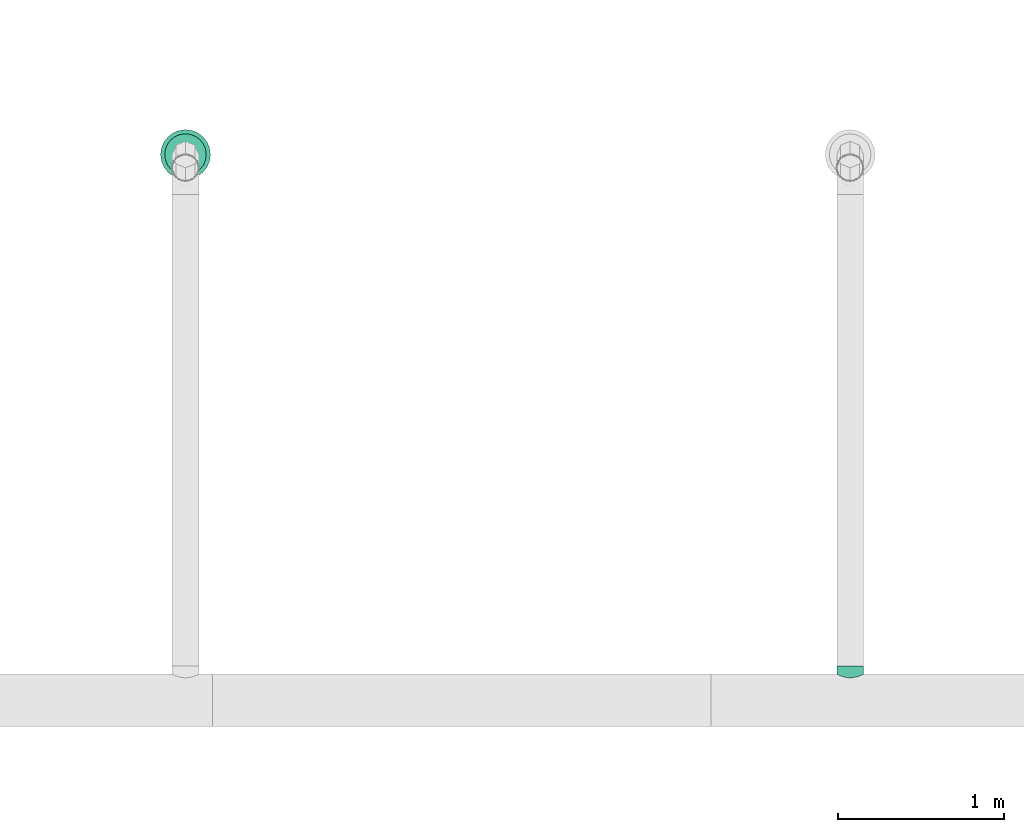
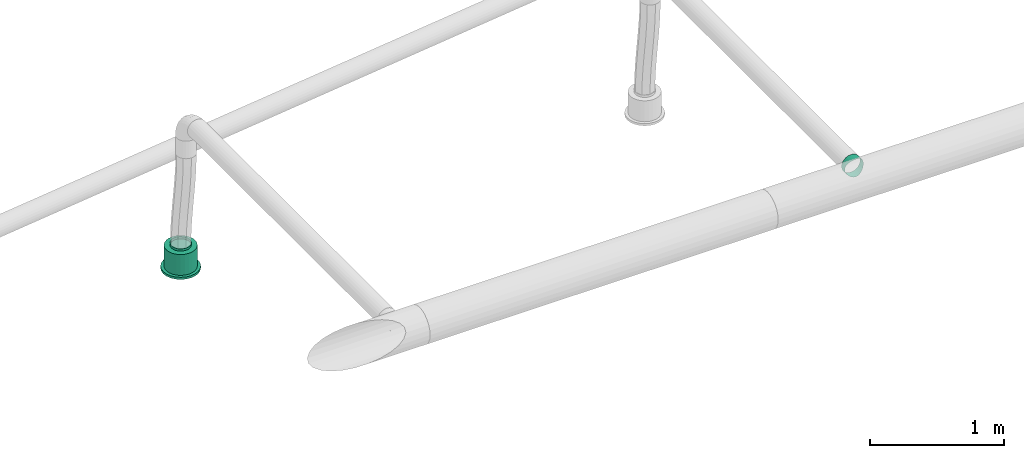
# One storey, part 50 of 374: 1 flow segment, 1 flow terminal.
"""IFC2X3 building model written with IfcOpenShell, lengths in metres."""

from ifc_helpers import new_model, si_unit, direction, origin, place, context, subcontext, project, spatial, open_shell, surface_model, source, transform, mapped, element, save


model = new_model("IFC2X3")

# Units and contexts
model_context = context("Model", 3, precision=1e-05, world=origin(), true_north=direction((-0.4480736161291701, 0.8939966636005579)))
body_context = subcontext(model_context, "Body", "Model", "MODEL_VIEW")
ifc_project = project(units=[si_unit("LENGTHUNIT", "METRE"), si_unit("AREAUNIT", "SQUARE_METRE"), si_unit("VOLUMEUNIT", "CUBIC_METRE"), si_unit("PLANEANGLEUNIT", "RADIAN"), si_unit("THERMODYNAMICTEMPERATUREUNIT", "KELVIN"), si_unit("MASSUNIT", "GRAM", prefix="KILO"), si_unit("TIMEUNIT", "SECOND")], contexts=[model_context])

# Site, building, storey
site_placement = place(None, origin())
site = spatial("IfcSite", under=ifc_project, at=site_placement, Name="Site 1", CompositionType="ELEMENT")
building_placement = place(site_placement, origin())
building = spatial("IfcBuilding", under=site, at=building_placement, Name="Undefined", CompositionType="ELEMENT")
storey_placement = place(building_placement, origin())
storey = spatial("IfcBuildingStorey", under=building, at=storey_placement, Name="Rez de chauss\x8ee", CompositionType="ELEMENT", Elevation=0.0)

# Flow terminal
shared_shape_1 = source(origin(), body_context, "Body", "SurfaceModel", [
    surface_model("IfcFaceBasedSurfaceModel", [(0.0, 0.0, 0.0), (0.03915785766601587, 0.0, 0.0), (0.03915785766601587, 0.020000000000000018, 0.0), (3.552713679e-15, 0.020000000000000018, 0.0), (0.07698144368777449, 0.0, -0.010134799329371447), (0.07698144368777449, 0.020000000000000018, -0.010134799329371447), (0.11089314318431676, 0.0, -0.02971372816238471), (0.11089314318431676, 0.020000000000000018, -0.02971372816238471), (0.13858192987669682, 0.0, -0.05740251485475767), (0.13858192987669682, 0.020000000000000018, -0.05740251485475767), (0.15816085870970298, 0.0, -0.09131421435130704), (0.15816085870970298, 0.020000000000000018, -0.09131421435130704), (0.16829565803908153, 0.0, -0.12913780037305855), (0.16829565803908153, 0.020000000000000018, -0.12913780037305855), (0.16829565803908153, 0.0, -0.16829565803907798), (0.16829565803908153, 0.020000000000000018, -0.16829565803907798), (0.15816085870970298, 0.0, -0.20611924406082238), (0.15816085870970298, 0.020000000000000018, -0.20611924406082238), (0.13858192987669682, 0.0, -0.24003094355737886), (0.13858192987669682, 0.020000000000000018, -0.24003094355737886), (0.11089314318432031, 0.0, -0.2677197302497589), (0.11089314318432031, 0.020000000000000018, -0.2677197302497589), (0.07698144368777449, 0.0, -0.2872986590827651), (0.07698144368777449, 0.020000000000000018, -0.2872986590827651), (0.039157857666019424, 0.0, -0.29743345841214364), (0.039157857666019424, 0.020000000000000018, -0.29743345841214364), (3.552713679e-15, 0.0, -0.29743345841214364), (3.552713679e-15, 0.020000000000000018, -0.29743345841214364), (-0.03782358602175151, 0.0, -0.2872986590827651), (-0.03782358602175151, 0.020000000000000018, -0.2872986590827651), (-0.07173528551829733, 0.0, -0.2677197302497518), (-0.07173528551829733, 0.020000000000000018, -0.2677197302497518), (-0.0994240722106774, 0.0, -0.24003094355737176), (-0.0994240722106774, 0.020000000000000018, -0.24003094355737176), (-0.11900300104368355, 0.0, -0.2061192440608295), (-0.11900300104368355, 0.020000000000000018, -0.2061192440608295), (-0.1291378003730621, 0.0, -0.16829565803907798), (-0.1291378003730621, 0.020000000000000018, -0.16829565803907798), (-0.1291378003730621, 0.0, -0.12913780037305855), (-0.1291378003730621, 0.020000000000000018, -0.12913780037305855), (-0.11900300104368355, 0.0, -0.09131421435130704), (-0.11900300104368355, 0.020000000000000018, -0.09131421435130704), (-0.0994240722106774, 0.0, -0.05740251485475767), (-0.0994240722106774, 0.020000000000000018, -0.05740251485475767), (-0.07173528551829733, 0.0, -0.029713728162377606), (-0.07173528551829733, 0.020000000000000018, -0.029713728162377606), (-0.03782358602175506, 0.0, -0.010134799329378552), (-0.03782358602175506, 0.020000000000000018, -0.010134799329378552), (0.019578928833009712, 0.0, -0.14871672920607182), (0.019578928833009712, 0.020000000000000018, -0.14871672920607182), (0.003263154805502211, 0.020000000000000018, -0.02478612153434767), (0.035894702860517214, 0.020000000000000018, -0.02478612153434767), (0.035894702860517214, 0.20999999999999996, -0.02478612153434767), (0.003263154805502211, 0.20999999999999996, -0.02478612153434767), (0.06741435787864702, 0.020000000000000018, -0.033231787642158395), (0.06741435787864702, 0.20999999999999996, -0.033231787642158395), (0.0956741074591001, 0.020000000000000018, -0.04954756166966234), (0.0956741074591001, 0.20999999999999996, -0.04954756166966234), (0.11874809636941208, 0.020000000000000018, -0.07262155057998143), (0.11874809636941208, 0.20999999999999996, -0.07262155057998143), (0.13506387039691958, 0.020000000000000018, -0.10088130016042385), (0.13506387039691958, 0.20999999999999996, -0.10088130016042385), (0.1435095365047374, 0.020000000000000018, -0.13240095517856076), (0.1435095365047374, 0.20999999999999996, -0.13240095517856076), (0.1435095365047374, 0.020000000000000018, -0.16503250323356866), (0.1435095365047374, 0.20999999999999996, -0.16503250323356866), (0.13506387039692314, 0.020000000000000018, -0.19655215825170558), (0.13506387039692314, 0.20999999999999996, -0.19655215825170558), (0.11874809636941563, 0.020000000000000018, -0.2248119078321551), (0.11874809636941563, 0.20999999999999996, -0.2248119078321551), (0.09567410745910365, 0.020000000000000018, -0.24788589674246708), (0.09567410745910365, 0.20999999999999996, -0.24788589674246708), (0.06741435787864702, 0.020000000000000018, -0.26420167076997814), (0.06741435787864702, 0.20999999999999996, -0.26420167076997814), (0.035894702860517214, 0.020000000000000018, -0.27264733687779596), (0.035894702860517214, 0.20999999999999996, -0.27264733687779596), (0.0032631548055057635, 0.020000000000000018, -0.27264733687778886), (0.0032631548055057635, 0.20999999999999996, -0.27264733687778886), (-0.028256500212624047, 0.020000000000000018, -0.26420167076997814), (-0.028256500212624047, 0.20999999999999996, -0.26420167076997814), (-0.05651624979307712, 0.020000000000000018, -0.2478858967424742), (-0.05651624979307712, 0.20999999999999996, -0.2478858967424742), (-0.07959023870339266, 0.020000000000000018, -0.2248119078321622), (-0.07959023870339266, 0.20999999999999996, -0.2248119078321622), (-0.09590601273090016, 0.020000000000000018, -0.19655215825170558), (-0.09590601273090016, 0.20999999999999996, -0.19655215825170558), (-0.10435167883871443, 0.020000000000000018, -0.16503250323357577), (-0.10435167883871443, 0.20999999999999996, -0.16503250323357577), (-0.10435167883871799, 0.020000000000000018, -0.13240095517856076), (-0.10435167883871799, 0.20999999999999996, -0.13240095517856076), (-0.09590601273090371, 0.020000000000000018, -0.10088130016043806), (-0.09590601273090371, 0.20999999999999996, -0.10088130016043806), (-0.07959023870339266, 0.020000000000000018, -0.07262155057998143), (-0.07959023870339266, 0.20999999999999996, -0.07262155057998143), (-0.056516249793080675, 0.020000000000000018, -0.04954756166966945), (-0.056516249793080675, 0.20999999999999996, -0.04954756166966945), (-0.028256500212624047, 0.020000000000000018, -0.033231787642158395), (-0.028256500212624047, 0.20999999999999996, -0.033231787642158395), (0.019578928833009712, 0.20999999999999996, -0.14871672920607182), (0.009136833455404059, 0.20999999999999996, -0.06940114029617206), (0.030021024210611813, 0.20999999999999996, -0.06940114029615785), (0.030021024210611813, 0.22999999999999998, -0.06940114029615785), (0.009136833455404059, 0.22999999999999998, -0.06940114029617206), (0.05019360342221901, 0.20999999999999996, -0.07480636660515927), (0.05019360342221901, 0.22999999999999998, -0.07480636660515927), (0.06827984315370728, 0.20999999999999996, -0.08524846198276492), (0.06827984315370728, 0.22999999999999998, -0.08524846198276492), (0.0830471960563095, 0.20999999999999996, -0.10001581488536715), (0.0830471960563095, 0.22999999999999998, -0.10001581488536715), (0.0934892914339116, 0.20999999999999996, -0.11810205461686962), (0.0934892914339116, 0.22999999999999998, -0.11810205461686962), (0.09889451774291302, 0.20999999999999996, -0.13827463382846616), (0.09889451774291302, 0.22999999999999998, -0.13827463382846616), (0.09889451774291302, 0.20999999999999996, -0.15915882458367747), (0.09889451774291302, 0.22999999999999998, -0.15915882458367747), (0.09348929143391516, 0.20999999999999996, -0.179331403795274), (0.09348929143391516, 0.22999999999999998, -0.179331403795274), (0.0830471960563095, 0.20999999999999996, -0.19741764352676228), (0.0830471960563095, 0.22999999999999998, -0.19741764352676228), (0.06827984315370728, 0.20999999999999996, -0.2121849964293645), (0.06827984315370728, 0.22999999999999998, -0.2121849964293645), (0.05019360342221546, 0.20999999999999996, -0.22262709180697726), (0.05019360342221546, 0.22999999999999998, -0.22262709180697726), (0.030021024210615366, 0.20999999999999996, -0.22803231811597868), (0.030021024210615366, 0.22999999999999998, -0.22803231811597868), (0.009136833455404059, 0.20999999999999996, -0.22803231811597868), (0.009136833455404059, 0.22999999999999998, -0.22803231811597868), (-0.011035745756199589, 0.20999999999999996, -0.22262709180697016), (-0.011035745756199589, 0.22999999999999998, -0.22262709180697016), (-0.0291219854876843, 0.20999999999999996, -0.2121849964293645), (-0.0291219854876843, 0.22999999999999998, -0.2121849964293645), (-0.043889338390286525, 0.20999999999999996, -0.19741764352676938), (-0.043889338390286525, 0.22999999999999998, -0.19741764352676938), (-0.05433143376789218, 0.20999999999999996, -0.17933140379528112), (-0.05433143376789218, 0.22999999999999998, -0.17933140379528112), (-0.05973666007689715, 0.20999999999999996, -0.15915882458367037), (-0.05973666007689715, 0.22999999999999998, -0.15915882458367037), (-0.0597366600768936, 0.20999999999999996, -0.13827463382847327), (-0.0597366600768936, 0.22999999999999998, -0.13827463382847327), (-0.05433143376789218, 0.20999999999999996, -0.11810205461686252), (-0.05433143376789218, 0.22999999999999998, -0.11810205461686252), (-0.043889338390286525, 0.20999999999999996, -0.10001581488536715), (-0.043889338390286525, 0.22999999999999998, -0.10001581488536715), (-0.02912198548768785, 0.20999999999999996, -0.08524846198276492), (-0.02912198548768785, 0.22999999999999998, -0.08524846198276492), (-0.011035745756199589, 0.20999999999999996, -0.07480636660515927), (-0.011035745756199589, 0.22999999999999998, -0.07480636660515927)], [open_shell([[[0, 1, 2, 3]], [[1, 4, 5, 2]], [[4, 6, 7, 5]], [[6, 8, 9, 7]], [[8, 10, 11, 9]], [[10, 12, 13, 11]], [[12, 14, 15, 13]], [[14, 16, 17, 15]], [[16, 18, 19, 17]], [[18, 20, 21, 19]], [[20, 22, 23, 21]], [[22, 24, 25, 23]], [[24, 26, 27, 25]], [[26, 28, 29, 27]], [[28, 30, 31, 29]], [[30, 32, 33, 31]], [[32, 34, 35, 33]], [[34, 36, 37, 35]], [[36, 38, 39, 37]], [[38, 40, 41, 39]], [[40, 42, 43, 41]], [[42, 44, 45, 43]], [[44, 46, 47, 45]], [[46, 0, 3, 47]], [[48, 1, 0]], [[48, 4, 1]], [[48, 6, 4]], [[48, 8, 6]], [[48, 10, 8]], [[48, 12, 10]], [[48, 14, 12]], [[48, 16, 14]], [[48, 18, 16]], [[48, 20, 18]], [[48, 22, 20]], [[48, 24, 22]], [[48, 26, 24]], [[48, 28, 26]], [[48, 30, 28]], [[48, 32, 30]], [[48, 34, 32]], [[48, 36, 34]], [[48, 38, 36]], [[48, 40, 38]], [[48, 42, 40]], [[48, 44, 42]], [[48, 46, 44]], [[48, 0, 46]], [[49, 47, 3]], [[49, 45, 47]], [[49, 43, 45]], [[49, 41, 43]], [[49, 39, 41]], [[49, 37, 39]], [[49, 35, 37]], [[49, 33, 35]], [[49, 31, 33]], [[49, 29, 31]], [[49, 27, 29]], [[49, 25, 27]], [[49, 23, 25]], [[49, 21, 23]], [[49, 19, 21]], [[49, 17, 19]], [[49, 15, 17]], [[49, 13, 15]], [[49, 11, 13]], [[49, 9, 11]], [[49, 7, 9]], [[49, 5, 7]], [[49, 2, 5]], [[49, 3, 2]], [[50, 51, 52, 53]], [[51, 54, 55, 52]], [[54, 56, 57, 55]], [[56, 58, 59, 57]], [[58, 60, 61, 59]], [[60, 62, 63, 61]], [[62, 64, 65, 63]], [[64, 66, 67, 65]], [[66, 68, 69, 67]], [[68, 70, 71, 69]], [[70, 72, 73, 71]], [[72, 74, 75, 73]], [[74, 76, 77, 75]], [[76, 78, 79, 77]], [[78, 80, 81, 79]], [[80, 82, 83, 81]], [[82, 84, 85, 83]], [[84, 86, 87, 85]], [[86, 88, 89, 87]], [[88, 90, 91, 89]], [[90, 92, 93, 91]], [[92, 94, 95, 93]], [[94, 96, 97, 95]], [[96, 50, 53, 97]], [[49, 51, 50]], [[49, 54, 51]], [[49, 56, 54]], [[49, 58, 56]], [[49, 60, 58]], [[49, 62, 60]], [[49, 64, 62]], [[49, 66, 64]], [[49, 68, 66]], [[49, 70, 68]], [[49, 72, 70]], [[49, 74, 72]], [[49, 76, 74]], [[49, 78, 76]], [[49, 80, 78]], [[49, 82, 80]], [[49, 84, 82]], [[49, 86, 84]], [[49, 88, 86]], [[49, 90, 88]], [[49, 92, 90]], [[49, 94, 92]], [[49, 96, 94]], [[49, 50, 96]], [[98, 97, 53]], [[98, 95, 97]], [[98, 93, 95]], [[98, 91, 93]], [[98, 89, 91]], [[98, 87, 89]], [[98, 85, 87]], [[98, 83, 85]], [[98, 81, 83]], [[98, 79, 81]], [[98, 77, 79]], [[98, 75, 77]], [[98, 73, 75]], [[98, 71, 73]], [[98, 69, 71]], [[98, 67, 69]], [[98, 65, 67]], [[98, 63, 65]], [[98, 61, 63]], [[98, 59, 61]], [[98, 57, 59]], [[98, 55, 57]], [[98, 52, 55]], [[98, 53, 52]], [[99, 100, 101, 102]], [[100, 103, 104, 101]], [[103, 105, 106, 104]], [[105, 107, 108, 106]], [[107, 109, 110, 108]], [[109, 111, 112, 110]], [[111, 113, 114, 112]], [[113, 115, 116, 114]], [[115, 117, 118, 116]], [[117, 119, 120, 118]], [[119, 121, 122, 120]], [[121, 123, 124, 122]], [[123, 125, 126, 124]], [[125, 127, 128, 126]], [[127, 129, 130, 128]], [[129, 131, 132, 130]], [[131, 133, 134, 132]], [[133, 135, 136, 134]], [[135, 137, 138, 136]], [[137, 139, 140, 138]], [[139, 141, 142, 140]], [[141, 143, 144, 142]], [[143, 145, 146, 144]], [[145, 99, 102, 146]]])]),
])
flow_terminal_placement = place(storey_placement, origin())
element("IfcFlowTerminal", 1, at=flow_terminal_placement, inside=storey, Name="Air diffuseur - bouche", ObjectType="Air diffuseur - bouche", context=body_context, shape_type="MappedRepresentation", body=[
    mapped(shared_shape_1, transform((18.290000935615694, 25.87999877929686, 2.38), x_axis=(0.9914448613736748, 0.13052619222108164, 0.0), y_axis=(0.0, 0.0, 1.0), z_axis=(0.13052619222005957, -0.9914448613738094, 0.0))),
])

# Flow segment
shared_shape_2 = source(origin(), body_context, "Body", "SurfaceModel", [
    surface_model("IfcFaceBasedSurfaceModel", [(0.0013669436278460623, 0.02088419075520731, 0.0), (0.0, 0.0, 0.0), (0.05136694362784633, -8.8817842e-16, 0.0), (0.05136694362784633, 0.02088419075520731, 0.0), (-0.0037970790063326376, -0.020172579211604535, -0.005405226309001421), (0.05136694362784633, -0.020172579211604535, -0.005405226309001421), (-0.009142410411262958, -0.03825881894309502, -0.015847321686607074), (0.05136694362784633, -0.03825881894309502, -0.015847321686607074), (-0.014689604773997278, -0.05302617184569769, -0.030614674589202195), (0.05136694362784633, -0.05302617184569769, -0.030614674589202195), (-0.018892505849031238, -0.06346826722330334, -0.04870091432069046), (0.05136694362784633, -0.06346826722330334, -0.04870091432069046), (-0.020463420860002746, -0.06887349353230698, -0.0688734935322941), (0.05136694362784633, -0.06887349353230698, -0.0688734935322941), (-0.018892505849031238, -0.06887349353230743, -0.08975768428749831), (0.05136694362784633, -0.06887349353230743, -0.08975768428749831), (-0.014689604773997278, -0.06346826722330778, -0.10993026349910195), (0.05136694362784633, -0.06346826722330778, -0.10993026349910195), (-0.009142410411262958, -0.05302617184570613, -0.12801650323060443), (0.05136694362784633, -0.05302617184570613, -0.12801650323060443), (-0.0037970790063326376, -0.03825881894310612, -0.14278385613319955), (0.05136694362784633, -0.03825881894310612, -0.14278385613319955), (0.0, -0.020172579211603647, -0.15322595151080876), (0.05136694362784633, -0.020172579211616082, -0.1532259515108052), (0.0013669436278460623, -1.3766765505e-14, -0.15863117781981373), (0.05136694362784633, -1.3766765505e-14, -0.15863117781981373), (0.0, 0.020884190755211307, -0.15863117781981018), (0.05136694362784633, 0.02088419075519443, -0.15863117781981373), (-0.0037970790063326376, 0.041056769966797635, -0.1532259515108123), (0.05136694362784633, 0.041056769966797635, -0.1532259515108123), (-0.009142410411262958, 0.05914300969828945, -0.14278385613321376), (0.05136694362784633, 0.05914300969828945, -0.14278385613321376), (-0.014689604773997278, 0.07391036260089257, -0.12801650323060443), (0.05136694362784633, 0.07391036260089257, -0.12801650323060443), (-0.018892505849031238, 0.08435245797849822, -0.10993026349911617), (0.05136694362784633, 0.08435245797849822, -0.10993026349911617), (-0.020463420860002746, 0.08975768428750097, -0.08975768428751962), (0.05136694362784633, 0.08975768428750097, -0.08975768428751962), (-0.018892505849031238, 0.0897576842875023, -0.06887349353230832), (0.05136694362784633, 0.0897576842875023, -0.06887349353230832), (-0.014689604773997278, 0.08435245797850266, -0.04870091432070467), (0.05136694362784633, 0.08435245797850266, -0.04870091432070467), (-0.009142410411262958, 0.07391036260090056, -0.030614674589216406), (0.05136694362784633, 0.07391036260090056, -0.030614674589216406), (-0.0037970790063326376, 0.05914300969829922, -0.01584732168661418), (0.05136694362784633, 0.05914300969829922, -0.01584732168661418), (0.0, 0.04105676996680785, -0.005405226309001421), (0.05136694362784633, 0.04105676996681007, -0.005405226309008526)], [open_shell([[[0, 1, 2, 3]], [[1, 4, 5, 2]], [[4, 6, 7, 5]], [[6, 8, 9, 7]], [[8, 10, 11, 9]], [[10, 12, 13, 11]], [[12, 14, 15, 13]], [[14, 16, 17, 15]], [[16, 18, 19, 17]], [[18, 20, 21, 19]], [[20, 22, 23, 21]], [[22, 24, 25, 23]], [[24, 26, 27, 25]], [[26, 28, 29, 27]], [[28, 30, 31, 29]], [[30, 32, 33, 31]], [[32, 34, 35, 33]], [[34, 36, 37, 35]], [[36, 38, 39, 37]], [[38, 40, 41, 39]], [[40, 42, 43, 41]], [[42, 44, 45, 43]], [[44, 46, 47, 45]], [[46, 0, 3, 47]]])]),
])
flow_segment_placement = place(storey_placement, origin())
element("IfcFlowSegment", 2, at=flow_segment_placement, inside=storey, Name="Piquage équerre circulaire", ObjectType="Piquage équerre circulaire", context=body_context, shape_type="MappedRepresentation", body=[
    mapped(shared_shape_2, transform((22.212726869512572, 22.901062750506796, 3.820705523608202), x_axis=(0.0, 1.0, 0.0), y_axis=(-0.13052619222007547, 0.0, -0.9914448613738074), z_axis=(-0.9914448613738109, 0.0, 0.1305261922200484))),
])

save(model, "model.ifc")
